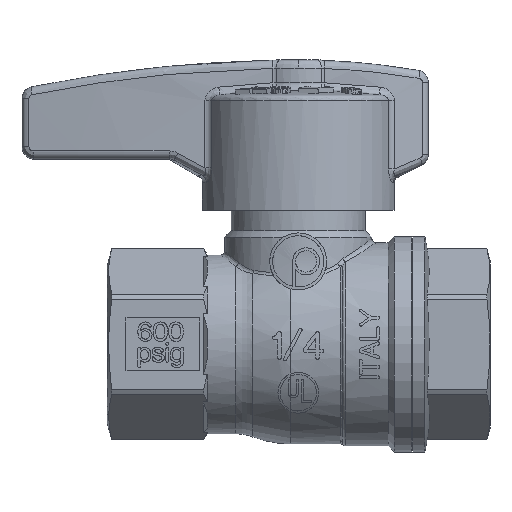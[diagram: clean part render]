
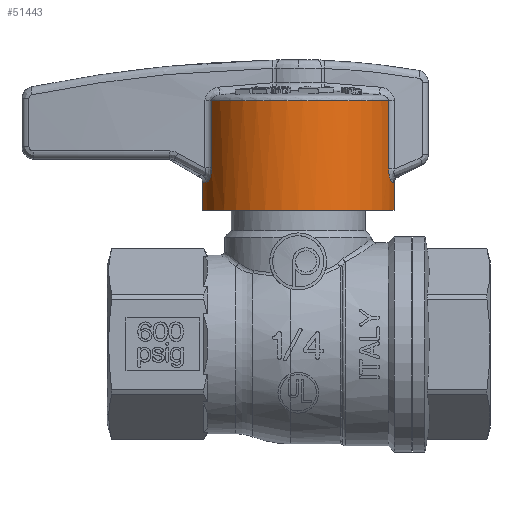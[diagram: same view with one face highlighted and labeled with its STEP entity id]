
A CAD part, top view. The second image highlights one B-rep face of the part: STEP entity #51443.
In plain terms, the highlighted cylindrical face has radius 12 mm (diameter 24 mm), a partial arc.
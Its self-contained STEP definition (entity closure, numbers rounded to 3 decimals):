
#46500=DIRECTION('',(0.,1.,0.));
#46501=VECTOR('',#46500,8.249);
#46502=CARTESIAN_POINT('',(10.651,5.221,
-5.528));
#46503=LINE('',#46502,#46501);
#46504=CARTESIAN_POINT('',(0.,13.47,0.));
#46505=DIRECTION('',(0.,-1.,0.));
#46506=DIRECTION('',(-0.927,0.,-0.376));
#46507=AXIS2_PLACEMENT_3D('',#46504,#46505,#46506);
#46509=DIRECTION('',(0.,-1.,0.));
#46510=VECTOR('',#46509,8.386);
#46511=CARTESIAN_POINT('',(-11.12,13.47,
-4.512));
#46512=LINE('',#46511,#46510);
#46513=CARTESIAN_POINT('',(-11.12,5.084,
-4.512));
#46514=CARTESIAN_POINT('',(-11.12,4.941,
-4.512));
#46515=CARTESIAN_POINT('',(-11.131,4.672,
-4.484));
#46516=CARTESIAN_POINT('',(-11.174,4.325,
-4.376));
#46517=CARTESIAN_POINT('',(-11.237,4.028,
-4.213));
#46518=CARTESIAN_POINT('',(-11.321,3.764,
-3.982));
#46519=CARTESIAN_POINT('',(-11.426,3.544,
-3.672));
#46520=CARTESIAN_POINT('',(-11.543,3.398,
-3.289));
#46521=CARTESIAN_POINT('',(-11.619,3.363,
-3.004));
#46522=CARTESIAN_POINT('',(-11.656,3.363,
-2.852));
#46524=CARTESIAN_POINT('',(0.,3.363,0.));
#46525=DIRECTION('',(0.,1.,0.));
#46526=DIRECTION('',(-0.971,0.,-0.238));
#46527=AXIS2_PLACEMENT_3D('',#46524,#46525,#46526);
#46529=DIRECTION('',(0.,1.,0.));
#46530=VECTOR('',#46529,3.363);
#46531=CARTESIAN_POINT('',(-11.787,0.,-2.253));
#46532=LINE('',#46531,#46530);
#46533=DIRECTION('',(0.,1.,0.));
#46534=VECTOR('',#46533,3.423);
#46535=CARTESIAN_POINT('',(11.787,0.,-2.25));
#46536=LINE('',#46535,#46534);
#46537=CARTESIAN_POINT('',(0.,3.423,0.));
#46538=DIRECTION('',(0.,1.,0.));
#46539=DIRECTION('',(0.982,0.,-0.188));
#46540=AXIS2_PLACEMENT_3D('',#46537,#46538,#46539);
#46542=CARTESIAN_POINT('',(11.315,3.423,
-3.997));
#46543=CARTESIAN_POINT('',(11.268,3.423,
-4.131));
#46544=CARTESIAN_POINT('',(11.174,3.455,
-4.382));
#46545=CARTESIAN_POINT('',(11.034,3.591,
-4.722));
#46546=CARTESIAN_POINT('',(10.91,3.797,
-4.999));
#46547=CARTESIAN_POINT('',(10.808,4.054,
-5.216));
#46548=CARTESIAN_POINT('',(10.725,4.368,
-5.384));
#46549=CARTESIAN_POINT('',(10.666,4.758,
-5.499));
#46550=CARTESIAN_POINT('',(10.651,5.059,
-5.528));
#46551=CARTESIAN_POINT('',(10.651,5.221,
-5.528));
#46686=CARTESIAN_POINT('',(0.,0.,0.));
#46687=DIRECTION('',(0.,-1.,0.));
#46688=DIRECTION('',(-0.982,0.,-0.188));
#46689=AXIS2_PLACEMENT_3D('',#46686,#46687,#46688);
#47751=CARTESIAN_POINT('',(-11.12,13.47,
-4.512));
#49783=CARTESIAN_POINT('',(11.787,0.,-2.25));
#49785=VERTEX_POINT('',#49783);
#49786=CARTESIAN_POINT('',(-11.787,0.,-2.253));
#49788=VERTEX_POINT('',#49786);
#49920=CARTESIAN_POINT('',(10.651,5.221,
-5.528));
#49921=CARTESIAN_POINT('',(10.651,13.47,
-5.528));
#49922=VERTEX_POINT('',#49920);
#49923=VERTEX_POINT('',#49921);
#49938=VERTEX_POINT('',#47751);
#49940=CARTESIAN_POINT('',(-11.12,5.084,
-4.512));
#49941=VERTEX_POINT('',#49940);
#49944=VERTEX_POINT('',#46522);
#49946=CARTESIAN_POINT('',(-11.787,3.363,-2.253));
#49947=VERTEX_POINT('',#49946);
#50556=CARTESIAN_POINT('',(11.787,3.423,-2.25));
#50557=CARTESIAN_POINT('',(11.315,3.423,
-3.997));
#50558=VERTEX_POINT('',#50556);
#50559=VERTEX_POINT('',#50557);
#51418=CARTESIAN_POINT('',(0.,-0.75,0.));
#51419=DIRECTION('',(0.,1.,0.));
#51420=DIRECTION('',(1.,0.,0.));
#51421=AXIS2_PLACEMENT_3D('',#51418,#51419,#51420);
#51422=CYLINDRICAL_SURFACE('',#51421,12.);
#51424=ORIENTED_EDGE('',*,*,#51423,.T.);
#51426=ORIENTED_EDGE('',*,*,#51425,.F.);
#51428=ORIENTED_EDGE('',*,*,#51427,.T.);
#51430=ORIENTED_EDGE('',*,*,#51429,.T.);
#51431=ORIENTED_EDGE('',*,*,#51044,.T.);
#51432=ORIENTED_EDGE('',*,*,#51407,.F.);
#51434=ORIENTED_EDGE('',*,*,#51433,.T.);
#51436=ORIENTED_EDGE('',*,*,#51435,.T.);
#51438=ORIENTED_EDGE('',*,*,#51437,.T.);
#51440=ORIENTED_EDGE('',*,*,#51439,.T.);
#51441=EDGE_LOOP('',(#51424,#51426,#51428,#51430,#51431,#51432,#51434,#51436,
#51438,#51440));
#51442=FACE_OUTER_BOUND('',#51441,.F.);
#51443=ADVANCED_FACE('',(#51442),#51422,.T.);
#46508=CIRCLE('',#46507,12.);
#46523=B_SPLINE_CURVE_WITH_KNOTS('',3,(#46513,#46514,#46515,#46516,#46517,
#46518,#46519,#46520,#46521,#46522),.UNSPECIFIED.,.F.,.F.,(4,1,1,1,1,1,1,4),(
0.,0.143,0.286,0.429,0.571,
0.714,0.857,1.),.UNSPECIFIED.);
#46528=CIRCLE('',#46527,12.);
#46541=CIRCLE('',#46540,12.);
#46552=B_SPLINE_CURVE_WITH_KNOTS('',3,(#46542,#46543,#46544,#46545,#46546,
#46547,#46548,#46549,#46550,#46551),.UNSPECIFIED.,.F.,.F.,(4,1,1,1,1,1,1,4),(
0.,0.143,0.286,0.429,0.571,
0.714,0.857,1.),.UNSPECIFIED.);
#46690=CIRCLE('',#46689,12.);
#51044=EDGE_CURVE('',#49944,#49947,#46528,.T.);
#51407=EDGE_CURVE('',#49788,#49947,#46532,.T.);
#51423=EDGE_CURVE('',#49922,#49923,#46503,.T.);
#51425=EDGE_CURVE('',#49938,#49923,#46508,.T.);
#51427=EDGE_CURVE('',#49938,#49941,#46512,.T.);
#51429=EDGE_CURVE('',#49941,#49944,#46523,.T.);
#51433=EDGE_CURVE('',#49788,#49785,#46690,.T.);
#51435=EDGE_CURVE('',#49785,#50558,#46536,.T.);
#51437=EDGE_CURVE('',#50558,#50559,#46541,.T.);
#51439=EDGE_CURVE('',#50559,#49922,#46552,.T.);
